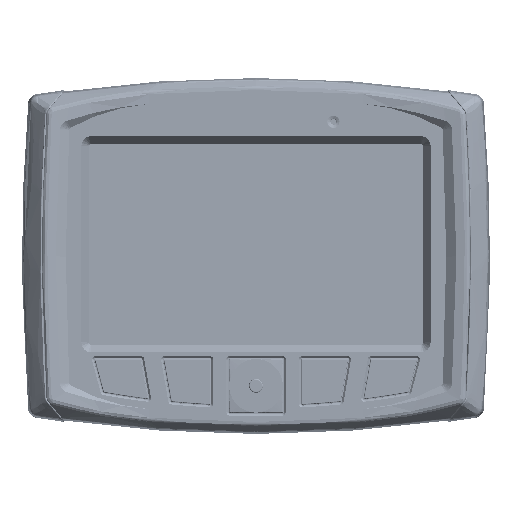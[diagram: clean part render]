
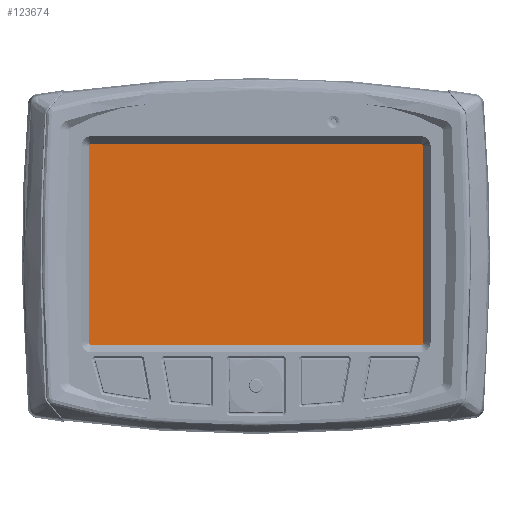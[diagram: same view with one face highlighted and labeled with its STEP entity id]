
A CAD part, top view. The second image highlights one B-rep face of the part: STEP entity #123674.
In plain terms, the highlighted planar face has unit normal (0, 0, 1).
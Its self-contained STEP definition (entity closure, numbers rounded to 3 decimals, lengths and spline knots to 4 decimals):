
#1047 = VECTOR ( 'NONE', #19869, 39.3701 ) ;
#11310 = DIRECTION ( 'NONE',  ( 1., 0., 0. ) ) ;
#19869 = DIRECTION ( 'NONE',  ( 0., 1., 0. ) ) ;
#24529 = VERTEX_POINT ( 'NONE', #341794 ) ;
#50165 = VECTOR ( 'NONE', #11310, 39.3701 ) ;
#53967 = LINE ( 'NONE', #56155, #1047 ) ;
#56155 = CARTESIAN_POINT ( 'NONE',  ( 3.1721, 2.1648, 0.4471 ) ) ;
#63150 = EDGE_LOOP ( 'NONE', ( #164222, #444469, #390729, #422244 ) ) ;
#103100 = CARTESIAN_POINT ( 'NONE',  ( -3.1669, 2.1648, 0.4471 ) ) ;
#112424 = LINE ( 'NONE', #324577, #188928 ) ;
#115975 = AXIS2_PLACEMENT_3D ( 'NONE', #398694, #433304, #169819 ) ;
#123674 = ADVANCED_FACE ( 'NONE', ( #179538 ), #357486, .T. ) ;
#131644 = CARTESIAN_POINT ( 'NONE',  ( -3.1669, -1.7958, 0.4471 ) ) ;
#136013 = DIRECTION ( 'NONE',  ( -1., 0., 0. ) ) ;
#158751 = VERTEX_POINT ( 'NONE', #382400 ) ;
#164222 = ORIENTED_EDGE ( 'NONE', *, *, #385892, .T. ) ;
#169819 = DIRECTION ( 'NONE',  ( 1., 0., 0. ) ) ;
#179538 = FACE_OUTER_BOUND ( 'NONE', #63150, .T. ) ;
#188928 = VECTOR ( 'NONE', #248842, 39.3701 ) ;
#195620 = EDGE_CURVE ( 'NONE', #158751, #345942, #464139, .T. ) ;
#218961 = VERTEX_POINT ( 'NONE', #131644 ) ;
#248842 = DIRECTION ( 'NONE',  ( 0., -1., 0. ) ) ;
#264039 = VECTOR ( 'NONE', #136013, 39.3701 ) ;
#275231 = EDGE_CURVE ( 'NONE', #24529, #158751, #53967, .T. ) ;
#285605 = EDGE_CURVE ( 'NONE', #218961, #24529, #374407, .T. ) ;
#322165 = CARTESIAN_POINT ( 'NONE',  ( -3.1669, 2.1648, 0.4471 ) ) ;
#324577 = CARTESIAN_POINT ( 'NONE',  ( -3.1669, 2.1648, 0.4471 ) ) ;
#341794 = CARTESIAN_POINT ( 'NONE',  ( 3.1721, -1.7958, 0.4471 ) ) ;
#345942 = VERTEX_POINT ( 'NONE', #322165 ) ;
#350576 = CARTESIAN_POINT ( 'NONE',  ( -3.1669, -1.7958, 0.4471 ) ) ;
#357486 = PLANE ( 'NONE',  #115975 ) ;
#374407 = LINE ( 'NONE', #350576, #50165 ) ;
#382400 = CARTESIAN_POINT ( 'NONE',  ( 3.1721, 2.1648, 0.4471 ) ) ;
#385892 = EDGE_CURVE ( 'NONE', #345942, #218961, #112424, .T. ) ;
#390729 = ORIENTED_EDGE ( 'NONE', *, *, #275231, .T. ) ;
#398694 = CARTESIAN_POINT ( 'NONE',  ( 0.0026, 0.1845, 0.4471 ) ) ;
#422244 = ORIENTED_EDGE ( 'NONE', *, *, #195620, .T. ) ;
#433304 = DIRECTION ( 'NONE',  ( 0., 0., 1. ) ) ;
#444469 = ORIENTED_EDGE ( 'NONE', *, *, #285605, .T. ) ;
#464139 = LINE ( 'NONE', #103100, #264039 ) ;
